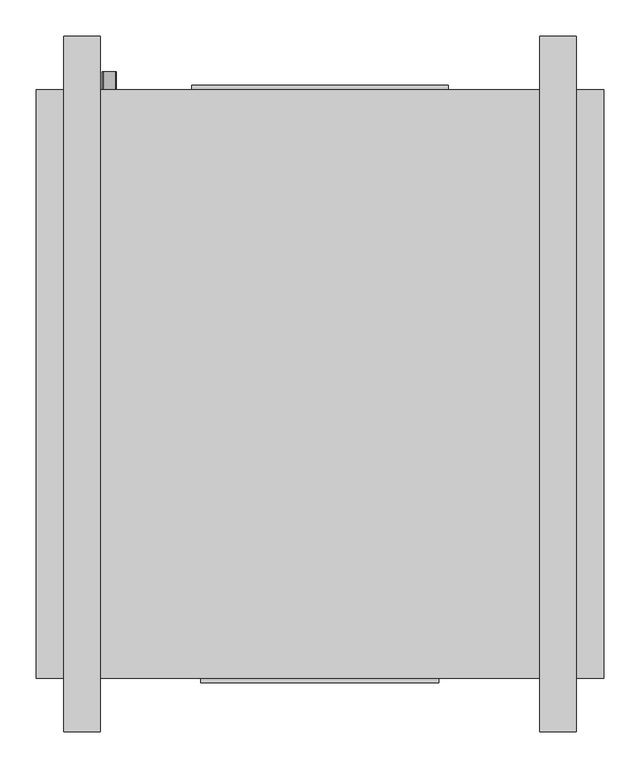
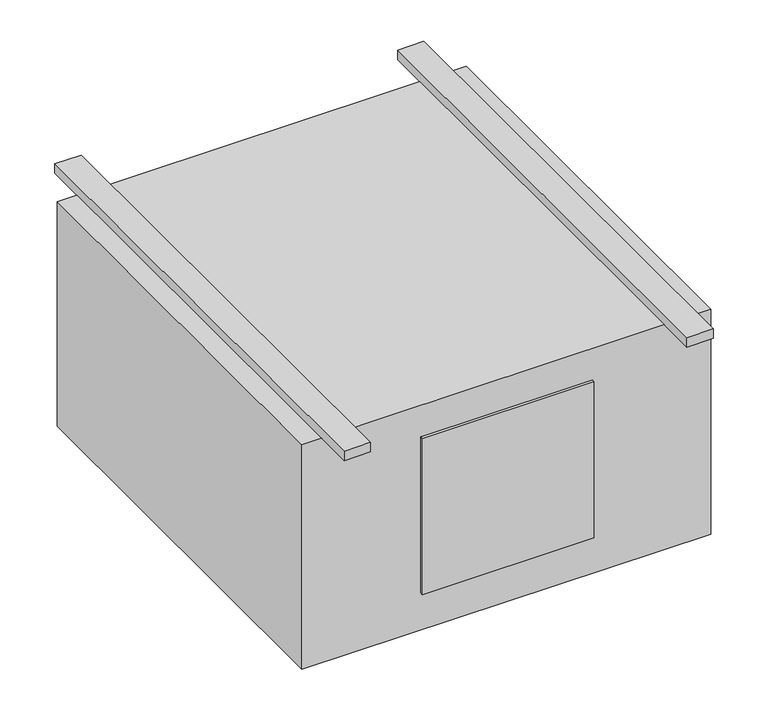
"""IFC4 building model written with IfcOpenShell, lengths in millimetres: proxy geometry, Exposed_High_Capacity_Horizontal_Cabinet_Fan_Coil_Unit_-_42DFA_-_CARRIER_-_2-Pipe_Cool-EHeat_LH_2022 : Size 06 - 277v/60Hz/1Ph - 6 Row 4.0kW."""

from ifc_helpers import new_model, si_unit, point, frame, frame_2d, origin, origin_with_axes, place, context, project, spatial, polyline, circle_curve, trimmed, segment, composite_curve, outline, extrude, source, transform, mapped, element, save


def mechanical_equipment_cd44f85f(model_context):
    return source(origin(), model_context, "Body", "SweptSolid", [
        extrude(outline(composite_curve([segment(trimmed(circle_curve(frame_2d((-406.4, -139.7)), 9.525), [point((-406.4, -149.225))], [point((-406.4, -130.175))], False, "CARTESIAN"), True, "CONTINUOUS"), segment(trimmed(circle_curve(frame_2d((-406.4, -139.7)), 9.525), [point((-406.4, -130.175))], [point((-406.4, -149.225))], False, "CARTESIAN"), True, "CONTINUOUS")], self_intersect=False)), frame((0.0, 169.8625, 0.0), z_axis=(0.0, 1.0, 0.0), x_axis=(0.0, 0.0, 1.0)), (0.0, 0.0, 1.0), 25.4),
        extrude(outline(composite_curve([segment(trimmed(circle_curve(frame_2d((-330.2, -139.7)), 7.9375), [point((-330.2, -147.6375))], [point((-330.2, -131.7625))], False, "CARTESIAN"), True, "CONTINUOUS"), segment(trimmed(circle_curve(frame_2d((-330.2, -139.7)), 7.9375), [point((-330.2, -131.7625))], [point((-330.2, -147.6375))], False, "CARTESIAN"), True, "CONTINUOUS")], self_intersect=False)), frame((0.0, 169.8625, 0.0), z_axis=(0.0, 1.0, 0.0), x_axis=(0.0, 0.0, 1.0)), (0.0, 0.0, 1.0), 25.4),
        extrude(outline(composite_curve([segment(trimmed(circle_curve(frame_2d((-254.0, -139.7)), 7.9375), [point((-254.0, -147.6375))], [point((-254.0, -131.7625))], False, "CARTESIAN"), True, "CONTINUOUS"), segment(trimmed(circle_curve(frame_2d((-254.0, -139.7)), 7.9375), [point((-254.0, -131.7625))], [point((-254.0, -147.6375))], False, "CARTESIAN"), True, "CONTINUOUS")], self_intersect=False)), frame((0.0, 169.8625, 0.0), z_axis=(0.0, 1.0, 0.0), x_axis=(0.0, 0.0, 1.0)), (0.0, 0.0, 1.0), 25.4),
        extrude(outline(polyline([(546.1, 169.8625), (546.1, -646.1125), (-241.3, -646.1125), (-241.3, 169.8625), (546.1, 169.8625)])), frame((0.0, 0.0, -457.2), z_axis=(0.0, 0.0, 1.0), x_axis=(1.0, 0.0, 0.0)), (0.0, 0.0, 1.0), 457.2),
        extrude(outline(polyline([(-25.4, 176.2125), (330.2, 176.2125), (330.2, 169.8625), (-25.4, 169.8625), (-25.4, 176.2125)])), frame((0.0, 0.0, -381.0), z_axis=(0.0, 0.0, 1.0), x_axis=(1.0, 0.0, 0.0)), (0.0, 0.0, 1.0), 355.6),
        extrude(outline(polyline([(-152.4, 244.475), (-152.4, -720.725), (-203.2, -720.725), (-203.2, 244.475), (-152.4, 244.475)])), origin_with_axes(), (0.0, 0.0, 1.0), 19.05),
        extrude(outline(polyline([(508.0, 244.475), (508.0, -720.725), (457.2, -720.725), (457.2, 244.475), (508.0, 244.475)])), origin_with_axes(), (0.0, 0.0, 1.0), 19.05),
        extrude(outline(polyline([(317.5, -652.4625), (-12.7, -652.4625), (-12.7, -646.1125), (317.5, -646.1125), (317.5, -652.4625)])), frame((0.0, 0.0, -381.0), z_axis=(0.0, 0.0, 1.0), x_axis=(1.0, 0.0, 0.0)), (0.0, 0.0, 1.0), 317.5),
    ])


if __name__ == "__main__":
    model = new_model("IFC4")
    model_context = context("Model", 3, world=origin())
    ifc_project = project(units=[si_unit("LENGTHUNIT", "METRE", prefix="MILLI")], contexts=[model_context])
    site = spatial("IfcSite", under=ifc_project)
    building = spatial("IfcBuilding", under=site)
    placement = place(None, origin())
    mechanical_equipment_shape = mechanical_equipment_cd44f85f(model_context)
    element("IfcBuildingElementProxy", 1, Name="Exposed_High_Capacity_Horizontal_Cabinet_Fan_Coil_Unit_-_42DFA_-_CARRIER_-_2-Pipe_Cool-EHeat_LH_2022 : Size 06 - 277v/60Hz/1Ph - 6 Row 4.0kW", ObjectType="Exposed_High_Capacity_Horizontal_Cabinet_Fan_Coil_Unit_-_42DFA_-_CARRIER_-_2-Pipe_Cool-EHeat_LH_2022 : Size 06 - 277v/60Hz/1Ph - 6 Row 4.0kW", at=placement, inside=building, context=model_context, shape_type="MappedRepresentation", body=[
        mapped(mechanical_equipment_shape, transform((0.0, 0.0, 0.0), x_axis=(1.0, 0.0, 0.0), y_axis=(0.0, 1.0, 0.0), z_axis=(0.0, 0.0, 1.0))),
    ])
    save(model, "model.ifc")
